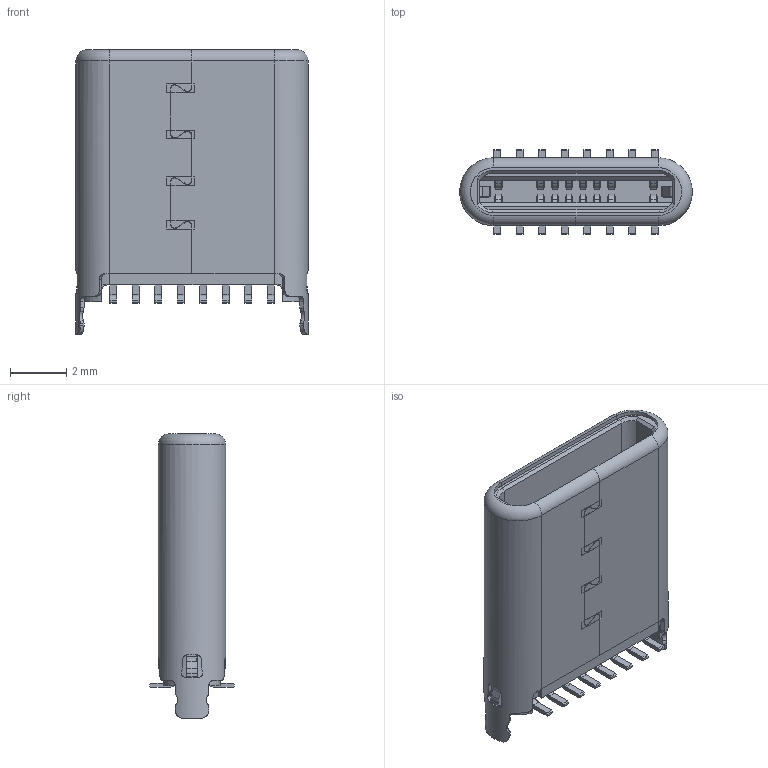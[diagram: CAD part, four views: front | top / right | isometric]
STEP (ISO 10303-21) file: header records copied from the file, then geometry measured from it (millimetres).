
FILE_DESCRIPTION(/* description */ (''),/* implementation_level */ '2;1');
FILE_NAME(/* name */ '0210 TYPE C 16P 公头立贴H9.0（石头档）.stp',/* time_stamp */ '2026-02-10T16:13:24+08:00',/* author */ (''),/* organization */ (''),/* preprocessor_version */ 'ST-DEVELOPER v16.7',/* originating_system */ 'SIEMENS PLM Software NX 12.0',/* authorisation */ '');
FILE_SCHEMA (('AUTOMOTIVE_DESIGN { 1 0 10303 214 3 1 1 1 }'));
Length unit declared in the file: millimetre
Products named in the file (1): HP6FB443128hzq
Bounding box: 8.25 x 3.01 x 10.1 mm (x, y, z)
Volume: 108.6 mm3; surface area: 804.2 mm2
Topology: 1 solids, 1 shells, 1334 faces, 4089 edges, 2748 vertices
Faces by surface type: plane 974, cylinder 291, extrusion 45, cone 18, torus 6
Entity records: 54349 total; most frequent: CARTESIAN_POINT 10921, ORIENTED_EDGE 8178, DIRECTION 6899, EDGE_CURVE 4089, VECTOR 3059, LINE 3014, VERTEX_POINT 2748, AXIS2_PLACEMENT_3D 1920
